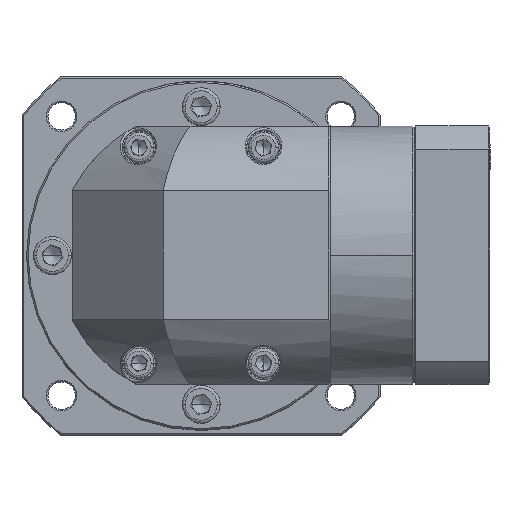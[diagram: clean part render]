
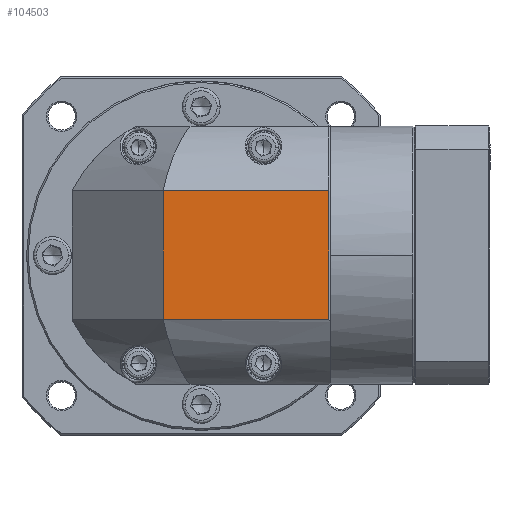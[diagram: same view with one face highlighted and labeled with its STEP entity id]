
A CAD part, top view. The second image highlights one B-rep face of the part: STEP entity #104503.
In plain terms, the highlighted planar face has unit normal (0, 0, 1).
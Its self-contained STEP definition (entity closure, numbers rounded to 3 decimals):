
#2088 = DIRECTION ( 'NONE',  ( 1., 0., 0. ) ) ;
#12273 = VERTEX_POINT ( 'NONE', #98191 ) ;
#25779 = LINE ( 'NONE', #60822, #25944 ) ;
#25944 = VECTOR ( 'NONE', #104478, 1000. ) ;
#31392 = DIRECTION ( 'NONE',  ( 0., 0., 1. ) ) ;
#31728 = VERTEX_POINT ( 'NONE', #76549 ) ;
#37359 = CARTESIAN_POINT ( 'NONE',  ( 14.185, 135.652, 73.502 ) ) ;
#40214 = VECTOR ( 'NONE', #136736, 1000. ) ;
#52090 = VERTEX_POINT ( 'NONE', #37359 ) ;
#53407 = VERTEX_POINT ( 'NONE', #135374 ) ;
#59034 = EDGE_CURVE ( 'NONE', #52090, #31728, #75472, .T. ) ;
#60822 = CARTESIAN_POINT ( 'NONE',  ( 14.185, 114.439, 73.502 ) ) ;
#62313 = EDGE_CURVE ( 'NONE', #12273, #53407, #138719, .T. ) ;
#64110 = ORIENTED_EDGE ( 'NONE', *, *, #140331, .F. ) ;
#64864 = DIRECTION ( 'NONE',  ( 0., 1., 0. ) ) ;
#65083 = DIRECTION ( 'NONE',  ( 1., 0., 0. ) ) ;
#75472 = LINE ( 'NONE', #88864, #126460 ) ;
#76549 = CARTESIAN_POINT ( 'NONE',  ( 68.685, 135.652, 73.502 ) ) ;
#81522 = AXIS2_PLACEMENT_3D ( 'NONE', #108268, #31392, #65083 ) ;
#82341 = VECTOR ( 'NONE', #64864, 1000. ) ;
#82605 = CARTESIAN_POINT ( 'NONE',  ( -31.315, 93.226, 73.502 ) ) ;
#87720 = EDGE_LOOP ( 'NONE', ( #140765, #64110, #129144, #103795 ) ) ;
#88864 = CARTESIAN_POINT ( 'NONE',  ( -31.315, 135.652, 73.502 ) ) ;
#98191 = CARTESIAN_POINT ( 'NONE',  ( 68.685, 93.226, 73.502 ) ) ;
#98504 = CARTESIAN_POINT ( 'NONE',  ( 68.685, 114.439, 73.502 ) ) ;
#103795 = ORIENTED_EDGE ( 'NONE', *, *, #110550, .T. ) ;
#104478 = DIRECTION ( 'NONE',  ( 0., 1., 0. ) ) ;
#104503 = ADVANCED_FACE ( 'NONE', ( #118959 ), #129156, .T. ) ;
#108268 = CARTESIAN_POINT ( 'NONE',  ( 26.685, 114.439, 73.502 ) ) ;
#110550 = EDGE_CURVE ( 'NONE', #12273, #31728, #129840, .T. ) ;
#118959 = FACE_OUTER_BOUND ( 'NONE', #87720, .T. ) ;
#126460 = VECTOR ( 'NONE', #2088, 1000. ) ;
#129144 = ORIENTED_EDGE ( 'NONE', *, *, #62313, .F. ) ;
#129156 = PLANE ( 'NONE',  #81522 ) ;
#129840 = LINE ( 'NONE', #98504, #82341 ) ;
#135374 = CARTESIAN_POINT ( 'NONE',  ( 14.185, 93.226, 73.502 ) ) ;
#136736 = DIRECTION ( 'NONE',  ( -1., 0., 0. ) ) ;
#138719 = LINE ( 'NONE', #82605, #40214 ) ;
#140331 = EDGE_CURVE ( 'NONE', #53407, #52090, #25779, .T. ) ;
#140765 = ORIENTED_EDGE ( 'NONE', *, *, #59034, .F. ) ;
